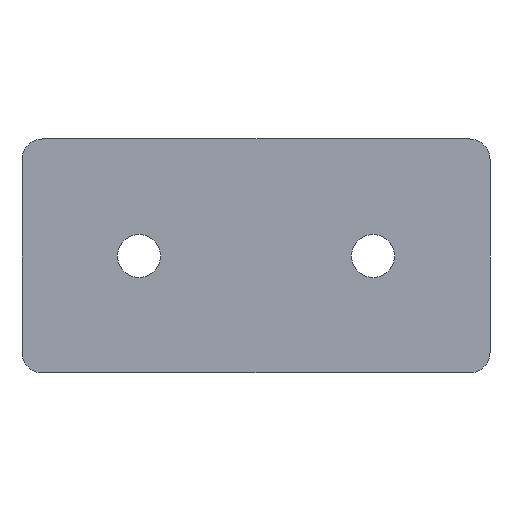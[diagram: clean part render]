
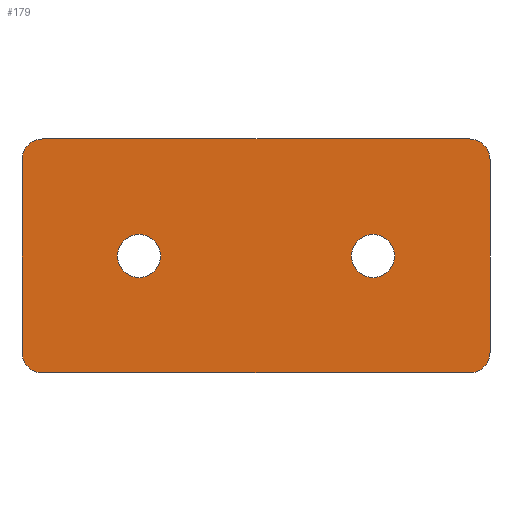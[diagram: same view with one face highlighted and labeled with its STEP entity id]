
A CAD part, front view. The second image highlights one B-rep face of the part: STEP entity #179.
In plain terms, the highlighted planar face has unit normal (0, -1, 0).
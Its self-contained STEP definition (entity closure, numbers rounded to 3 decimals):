
#12 = ORIENTED_EDGE ( 'NONE', *, *, #320, .T. ) ;
#13 = VECTOR ( 'NONE', #377, 1000. ) ;
#15 = CIRCLE ( 'NONE', #226, 4.15 ) ;
#18 = VERTEX_POINT ( 'NONE', #254 ) ;
#19 = CARTESIAN_POINT ( 'NONE',  ( 41., -5., 18.5 ) ) ;
#23 = CIRCLE ( 'NONE', #233, 4. ) ;
#26 = AXIS2_PLACEMENT_3D ( 'NONE', #163, #85, #399 ) ;
#29 = CARTESIAN_POINT ( 'NONE',  ( 22.5, -5., -4.15 ) ) ;
#32 = ORIENTED_EDGE ( 'NONE', *, *, #208, .T. ) ;
#46 = DIRECTION ( 'NONE',  ( 0., 0., 1. ) ) ;
#60 = AXIS2_PLACEMENT_3D ( 'NONE', #69, #246, #478 ) ;
#62 = AXIS2_PLACEMENT_3D ( 'NONE', #81, #220, #497 ) ;
#65 = LINE ( 'NONE', #188, #13 ) ;
#67 = CARTESIAN_POINT ( 'NONE',  ( -45., -5., -18.5 ) ) ;
#68 = ORIENTED_EDGE ( 'NONE', *, *, #410, .T. ) ;
#69 = CARTESIAN_POINT ( 'NONE',  ( -41., -5., -18.5 ) ) ;
#71 = DIRECTION ( 'NONE',  ( 0., 1., 0. ) ) ;
#75 = EDGE_CURVE ( 'NONE', #96, #362, #589, .T. ) ;
#81 = CARTESIAN_POINT ( 'NONE',  ( -45., -5., 22.5 ) ) ;
#83 = PLANE ( 'NONE',  #62 ) ;
#85 = DIRECTION ( 'NONE',  ( 0., -1., 0. ) ) ;
#96 = VERTEX_POINT ( 'NONE', #106 ) ;
#101 = DIRECTION ( 'NONE',  ( 0., 0., -1. ) ) ;
#106 = CARTESIAN_POINT ( 'NONE',  ( -41., -5., 22.5 ) ) ;
#109 = EDGE_CURVE ( 'NONE', #18, #237, #326, .T. ) ;
#110 = DIRECTION ( 'NONE',  ( 1., 0., 0. ) ) ;
#124 = VERTEX_POINT ( 'NONE', #199 ) ;
#127 = FACE_OUTER_BOUND ( 'NONE', #473, .T. ) ;
#129 = CARTESIAN_POINT ( 'NONE',  ( 45., -5., 22.5 ) ) ;
#130 = FACE_BOUND ( 'NONE', #587, .T. ) ;
#131 = ORIENTED_EDGE ( 'NONE', *, *, #507, .F. ) ;
#134 = VECTOR ( 'NONE', #110, 1000. ) ;
#151 = LINE ( 'NONE', #425, #134 ) ;
#152 = AXIS2_PLACEMENT_3D ( 'NONE', #549, #457, #171 ) ;
#154 = CARTESIAN_POINT ( 'NONE',  ( 45., -5., -18.5 ) ) ;
#163 = CARTESIAN_POINT ( 'NONE',  ( 41., -5., -18.5 ) ) ;
#165 = CARTESIAN_POINT ( 'NONE',  ( 22.5, -5., 0. ) ) ;
#171 = DIRECTION ( 'NONE',  ( 0., 0., 1. ) ) ;
#178 = CARTESIAN_POINT ( 'NONE',  ( 45., -5., 18.5 ) ) ;
#179 = ADVANCED_FACE ( 'NONE', ( #130, #494, #127 ), #83, .F. ) ;
#182 = VERTEX_POINT ( 'NONE', #546 ) ;
#183 = CARTESIAN_POINT ( 'NONE',  ( -45., -5., 18.5 ) ) ;
#185 = AXIS2_PLACEMENT_3D ( 'NONE', #311, #496, #485 ) ;
#187 = ORIENTED_EDGE ( 'NONE', *, *, #388, .F. ) ;
#188 = CARTESIAN_POINT ( 'NONE',  ( -45., -5., -22.5 ) ) ;
#190 = LINE ( 'NONE', #129, #590 ) ;
#194 = DIRECTION ( 'NONE',  ( 0., -1., 0. ) ) ;
#195 = CIRCLE ( 'NONE', #152, 4.15 ) ;
#199 = CARTESIAN_POINT ( 'NONE',  ( 41., -5., -22.5 ) ) ;
#208 = EDGE_CURVE ( 'NONE', #237, #18, #195, .T. ) ;
#220 = DIRECTION ( 'NONE',  ( 0., 1., 0. ) ) ;
#226 = AXIS2_PLACEMENT_3D ( 'NONE', #165, #542, #46 ) ;
#229 = EDGE_CURVE ( 'NONE', #182, #407, #15, .T. ) ;
#233 = AXIS2_PLACEMENT_3D ( 'NONE', #19, #194, #343 ) ;
#237 = VERTEX_POINT ( 'NONE', #309 ) ;
#246 = DIRECTION ( 'NONE',  ( 0., -1., 0. ) ) ;
#249 = DIRECTION ( 'NONE',  ( 0., 0., 1. ) ) ;
#254 = CARTESIAN_POINT ( 'NONE',  ( -22.5, -5., -4.15 ) ) ;
#258 = VERTEX_POINT ( 'NONE', #396 ) ;
#291 = DIRECTION ( 'NONE',  ( 0., 0., 1. ) ) ;
#293 = CARTESIAN_POINT ( 'NONE',  ( -22.5, -5., 0. ) ) ;
#298 = VERTEX_POINT ( 'NONE', #178 ) ;
#309 = CARTESIAN_POINT ( 'NONE',  ( -22.5, -5., 4.15 ) ) ;
#311 = CARTESIAN_POINT ( 'NONE',  ( 22.5, -5., 0. ) ) ;
#320 = EDGE_CURVE ( 'NONE', #362, #451, #508, .T. ) ;
#326 = CIRCLE ( 'NONE', #357, 4.15 ) ;
#343 = DIRECTION ( 'NONE',  ( 0., 0., 1. ) ) ;
#354 = VERTEX_POINT ( 'NONE', #566 ) ;
#357 = AXIS2_PLACEMENT_3D ( 'NONE', #293, #71, #249 ) ;
#360 = ORIENTED_EDGE ( 'NONE', *, *, #518, .T. ) ;
#362 = VERTEX_POINT ( 'NONE', #183 ) ;
#367 = ORIENTED_EDGE ( 'NONE', *, *, #447, .T. ) ;
#373 = EDGE_LOOP ( 'NONE', ( #360, #495 ) ) ;
#377 = DIRECTION ( 'NONE',  ( 1., 0., 0. ) ) ;
#378 = DIRECTION ( 'NONE',  ( 0., -1., 0. ) ) ;
#388 = EDGE_CURVE ( 'NONE', #96, #258, #151, .T. ) ;
#396 = CARTESIAN_POINT ( 'NONE',  ( 41., -5., 22.5 ) ) ;
#399 = DIRECTION ( 'NONE',  ( 0., 0., 1. ) ) ;
#407 = VERTEX_POINT ( 'NONE', #29 ) ;
#410 = EDGE_CURVE ( 'NONE', #298, #258, #23, .T. ) ;
#424 = AXIS2_PLACEMENT_3D ( 'NONE', #575, #378, #291 ) ;
#425 = CARTESIAN_POINT ( 'NONE',  ( -45., -5., 22.5 ) ) ;
#436 = ORIENTED_EDGE ( 'NONE', *, *, #544, .T. ) ;
#445 = ORIENTED_EDGE ( 'NONE', *, *, #498, .T. ) ;
#447 = EDGE_CURVE ( 'NONE', #451, #354, #472, .T. ) ;
#451 = VERTEX_POINT ( 'NONE', #67 ) ;
#457 = DIRECTION ( 'NONE',  ( 0., 1., 0. ) ) ;
#467 = ORIENTED_EDGE ( 'NONE', *, *, #109, .T. ) ;
#472 = CIRCLE ( 'NONE', #60, 4. ) ;
#473 = EDGE_LOOP ( 'NONE', ( #12, #367, #445, #436, #131, #68, #187, #567 ) ) ;
#478 = DIRECTION ( 'NONE',  ( 0., 0., 1. ) ) ;
#485 = DIRECTION ( 'NONE',  ( 0., 0., 1. ) ) ;
#491 = DIRECTION ( 'NONE',  ( 0., 0., -1. ) ) ;
#493 = VERTEX_POINT ( 'NONE', #154 ) ;
#494 = FACE_BOUND ( 'NONE', #373, .T. ) ;
#495 = ORIENTED_EDGE ( 'NONE', *, *, #229, .T. ) ;
#496 = DIRECTION ( 'NONE',  ( 0., 1., 0. ) ) ;
#497 = DIRECTION ( 'NONE',  ( 0., 0., 1. ) ) ;
#498 = EDGE_CURVE ( 'NONE', #354, #124, #65, .T. ) ;
#505 = CARTESIAN_POINT ( 'NONE',  ( -45., -5., 22.5 ) ) ;
#507 = EDGE_CURVE ( 'NONE', #298, #493, #190, .T. ) ;
#508 = LINE ( 'NONE', #505, #539 ) ;
#518 = EDGE_CURVE ( 'NONE', #407, #182, #564, .T. ) ;
#539 = VECTOR ( 'NONE', #101, 1000. ) ;
#541 = CIRCLE ( 'NONE', #26, 4. ) ;
#542 = DIRECTION ( 'NONE',  ( 0., 1., 0. ) ) ;
#544 = EDGE_CURVE ( 'NONE', #124, #493, #541, .T. ) ;
#546 = CARTESIAN_POINT ( 'NONE',  ( 22.5, -5., 4.15 ) ) ;
#549 = CARTESIAN_POINT ( 'NONE',  ( -22.5, -5., 0. ) ) ;
#564 = CIRCLE ( 'NONE', #185, 4.15 ) ;
#566 = CARTESIAN_POINT ( 'NONE',  ( -41., -5., -22.5 ) ) ;
#567 = ORIENTED_EDGE ( 'NONE', *, *, #75, .T. ) ;
#575 = CARTESIAN_POINT ( 'NONE',  ( -41., -5., 18.5 ) ) ;
#587 = EDGE_LOOP ( 'NONE', ( #467, #32 ) ) ;
#589 = CIRCLE ( 'NONE', #424, 4. ) ;
#590 = VECTOR ( 'NONE', #491, 1000. ) ;
